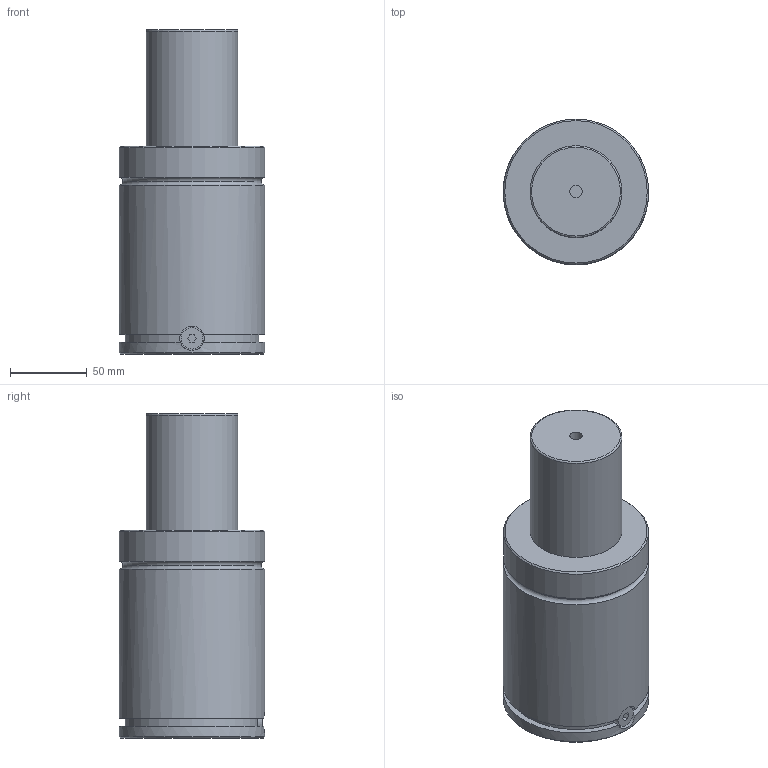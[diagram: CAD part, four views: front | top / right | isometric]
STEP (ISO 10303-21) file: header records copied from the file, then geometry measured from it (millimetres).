
FILE_DESCRIPTION(('FreeCAD Model'),'2;1');
FILE_NAME('Open CASCADE Shape Model','2024-11-12T10:08:20',('Author'),( ''),'Open CASCADE STEP processor 7.6','FreeCAD','Unknown');
FILE_SCHEMA(('AUTOMOTIVE_DESIGN { 1 0 10303 214 1 1 1 1 }'));
Length unit declared in the file: millimetre
Products named in the file (7): Unnamed; Part001; MICRO 95x018; Part014; Cut003; Part015; Cut
Assembly tree (6 placements, depth 3):
  Unnamed
    Part001
      MICRO 95x018
    Part014
      Cut003
    Part015
      Cut
Bounding box: 95 x 95 x 212 mm (x, y, z)
Volume: 1167476.8 mm3; surface area: 79599.4 mm2
Topology: 3 solids, 3 shells, 45 faces, 88 edges, 56 vertices
Faces by surface type: plane 22, cylinder 16, cone 4, torus 3
Full cylindrical faces by diameter (mm): 8 x5, 16 x1, 60 x1, 95 x3
Entity records: 1511 total; most frequent: CARTESIAN_POINT 417, DIRECTION 225, ORIENTED_EDGE 176, AXIS2_PLACEMENT_3D 92, EDGE_CURVE 88, VERTEX_POINT 56, FACE_BOUND 52, EDGE_LOOP 52
